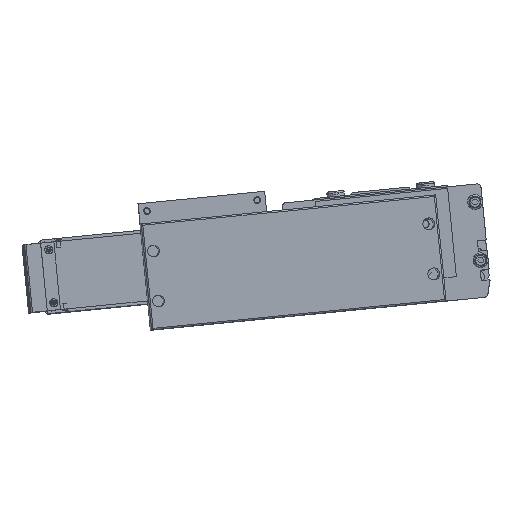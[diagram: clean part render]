
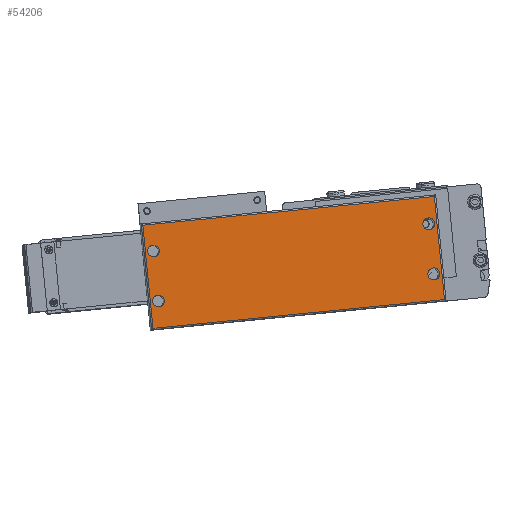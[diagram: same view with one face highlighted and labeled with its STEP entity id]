
A CAD part, top view. The second image highlights one B-rep face of the part: STEP entity #54206.
In plain terms, the highlighted planar face has unit normal (0.017, 0.003, 1) as drawn and (0, 0, 1) by its records, which use the part's own axes.
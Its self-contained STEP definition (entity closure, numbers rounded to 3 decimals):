
#23736 = AXIS2_PLACEMENT_3D ( 'NONE', #24044, #24042, #24057 ) ;
#23737 = CIRCLE ( 'NONE', #23736, 4. ) ;
#24042 = DIRECTION ( 'NONE',  ( 0., 0., 1. ) ) ;
#24044 = CARTESIAN_POINT ( 'NONE',  ( 29.25, 19., 44. ) ) ;
#24057 = DIRECTION ( 'NONE',  ( 1., 0., 0. ) ) ;
#24202 = CARTESIAN_POINT ( 'NONE',  ( 25.25, 53., 44. ) ) ;
#24241 = CARTESIAN_POINT ( 'NONE',  ( 25.25, 19., 44. ) ) ;
#24295 = CARTESIAN_POINT ( 'NONE',  ( -161.75, 19., 44. ) ) ;
#24300 = CARTESIAN_POINT ( 'NONE',  ( 33.25, 19., 44. ) ) ;
#24325 = DIRECTION ( 'NONE',  ( 1., 0., 0. ) ) ;
#24326 = DIRECTION ( 'NONE',  ( 0., 0., 1. ) ) ;
#24327 = CARTESIAN_POINT ( 'NONE',  ( -157.75, 19., 44. ) ) ;
#24337 = AXIS2_PLACEMENT_3D ( 'NONE', #24327, #24326, #24325 ) ;
#24342 = CARTESIAN_POINT ( 'NONE',  ( -153.75, 19., 44. ) ) ;
#24344 = CIRCLE ( 'NONE', #24337, 4. ) ;
#24363 = DIRECTION ( 'NONE',  ( 1., 0., 0. ) ) ;
#24364 = DIRECTION ( 'NONE',  ( 0., 0., 1. ) ) ;
#24365 = CARTESIAN_POINT ( 'NONE',  ( -157.75, 53., 44. ) ) ;
#24366 = AXIS2_PLACEMENT_3D ( 'NONE', #24365, #24364, #24363 ) ;
#24373 = CIRCLE ( 'NONE', #24366, 4. ) ;
#24377 = CARTESIAN_POINT ( 'NONE',  ( -161.75, 53., 44. ) ) ;
#24378 = CARTESIAN_POINT ( 'NONE',  ( -153.75, 53., 44. ) ) ;
#24424 = DIRECTION ( 'NONE',  ( 1., 0., 0. ) ) ;
#24425 = DIRECTION ( 'NONE',  ( 0., 0., 1. ) ) ;
#24426 = CARTESIAN_POINT ( 'NONE',  ( 29.25, 53., 44. ) ) ;
#24430 = CARTESIAN_POINT ( 'NONE',  ( 33.25, 53., 44. ) ) ;
#24437 = AXIS2_PLACEMENT_3D ( 'NONE', #24426, #24425, #24424 ) ;
#24440 = CIRCLE ( 'NONE', #24437, 4. ) ;
#31215 = CARTESIAN_POINT ( 'NONE',  ( 34.75, 1., 44. ) ) ;
#31313 = CARTESIAN_POINT ( 'NONE',  ( 34.75, 72., 44. ) ) ;
#31314 = LINE ( 'NONE', #31313, #31378 ) ;
#31348 = CARTESIAN_POINT ( 'NONE',  ( 35.75, 1., 44. ) ) ;
#31350 = LINE ( 'NONE', #31348, #31384 ) ;
#31373 = VECTOR ( 'NONE', #31449, 1000. ) ;
#31375 = CARTESIAN_POINT ( 'NONE',  ( -164.25, 71., 44. ) ) ;
#31376 = LINE ( 'NONE', #31375, #31373 ) ;
#31377 = DIRECTION ( 'NONE',  ( 0., 1., 0. ) ) ;
#31378 = VECTOR ( 'NONE', #31377, 1000. ) ;
#31383 = DIRECTION ( 'NONE',  ( 1., 0., 0. ) ) ;
#31384 = VECTOR ( 'NONE', #31383, 1000. ) ;
#31412 = CARTESIAN_POINT ( 'NONE',  ( 34.75, 71., 44. ) ) ;
#31413 = CIRCLE ( 'NONE', #31441, 4. ) ;
#31415 = CARTESIAN_POINT ( 'NONE',  ( 29.25, 19., 44. ) ) ;
#31416 = CARTESIAN_POINT ( 'NONE',  ( -163.25, 71., 44. ) ) ;
#31417 = DIRECTION ( 'NONE',  ( 0., 0., 1. ) ) ;
#31418 = CARTESIAN_POINT ( 'NONE',  ( -164.25, 0., 44. ) ) ;
#31419 = DIRECTION ( 'NONE',  ( 0., -1., 0. ) ) ;
#31420 = VECTOR ( 'NONE', #31419, 1000. ) ;
#31421 = CARTESIAN_POINT ( 'NONE',  ( -163.25, 0., 44. ) ) ;
#31422 = LINE ( 'NONE', #31421, #31420 ) ;
#31441 = AXIS2_PLACEMENT_3D ( 'NONE', #31415, #31507, #31505 ) ;
#31449 = DIRECTION ( 'NONE',  ( -1., 0., 0. ) ) ;
#31452 = DIRECTION ( 'NONE',  ( 1., 0., 0. ) ) ;
#31462 = CIRCLE ( 'NONE', #31582, 4. ) ;
#31465 = DIRECTION ( 'NONE',  ( 1., 0., 0. ) ) ;
#31467 = DIRECTION ( 'NONE',  ( 0., 0., 1. ) ) ;
#31468 = AXIS2_PLACEMENT_3D ( 'NONE', #31508, #31467, #31465 ) ;
#31470 = FACE_BOUND ( 'NONE', #54133, .T. ) ;
#31471 = AXIS2_PLACEMENT_3D ( 'NONE', #31418, #31417, #31452 ) ;
#31473 = FACE_OUTER_BOUND ( 'NONE', #54188, .T. ) ;
#31475 = CIRCLE ( 'NONE', #31468, 4. ) ;
#31486 = FACE_BOUND ( 'NONE', #54186, .T. ) ;
#31489 = FACE_BOUND ( 'NONE', #54183, .T. ) ;
#31492 = CARTESIAN_POINT ( 'NONE',  ( -163.25, 1., 44. ) ) ;
#31493 = DIRECTION ( 'NONE',  ( 1., 0., 0. ) ) ;
#31495 = DIRECTION ( 'NONE',  ( 0., 0., 1. ) ) ;
#31497 = AXIS2_PLACEMENT_3D ( 'NONE', #31510, #31495, #31493 ) ;
#31499 = CIRCLE ( 'NONE', #31497, 4. ) ;
#31503 = FACE_BOUND ( 'NONE', #54128, .T. ) ;
#31505 = DIRECTION ( 'NONE',  ( 1., 0., 0. ) ) ;
#31507 = DIRECTION ( 'NONE',  ( 0., 0., 1. ) ) ;
#31508 = CARTESIAN_POINT ( 'NONE',  ( -157.75, 53., 44. ) ) ;
#31510 = CARTESIAN_POINT ( 'NONE',  ( 29.25, 53., 44. ) ) ;
#31511 = PLANE ( 'NONE',  #31471 ) ;
#31577 = DIRECTION ( 'NONE',  ( 1., 0., 0. ) ) ;
#31578 = DIRECTION ( 'NONE',  ( 0., 0., 1. ) ) ;
#31580 = CARTESIAN_POINT ( 'NONE',  ( -157.75, 19., 44. ) ) ;
#31582 = AXIS2_PLACEMENT_3D ( 'NONE', #31580, #31578, #31577 ) ;
#51984 = VERTEX_POINT ( 'NONE', #24202 ) ;
#51989 = VERTEX_POINT ( 'NONE', #24241 ) ;
#52037 = VERTEX_POINT ( 'NONE', #24300 ) ;
#52039 = EDGE_CURVE ( 'NONE', #51989, #52037, #23737, .T. ) ;
#52044 = VERTEX_POINT ( 'NONE', #24295 ) ;
#52051 = VERTEX_POINT ( 'NONE', #24342 ) ;
#52053 = EDGE_CURVE ( 'NONE', #52044, #52051, #24344, .T. ) ;
#52062 = VERTEX_POINT ( 'NONE', #24378 ) ;
#52064 = VERTEX_POINT ( 'NONE', #24377 ) ;
#52069 = EDGE_CURVE ( 'NONE', #52064, #52062, #24373, .T. ) ;
#52093 = VERTEX_POINT ( 'NONE', #24430 ) ;
#52094 = EDGE_CURVE ( 'NONE', #51984, #52093, #24440, .T. ) ;
#54128 = EDGE_LOOP ( 'NONE', ( #54201, #54141 ) ) ;
#54132 = VERTEX_POINT ( 'NONE', #31215 ) ;
#54133 = EDGE_LOOP ( 'NONE', ( #54208, #54203 ) ) ;
#54141 = ORIENTED_EDGE ( 'NONE', *, *, #52039, .F. ) ;
#54170 = EDGE_CURVE ( 'NONE', #54192, #54132, #31350, .T. ) ;
#54171 = ORIENTED_EDGE ( 'NONE', *, *, #54170, .T. ) ;
#54172 = EDGE_CURVE ( 'NONE', #54132, #54191, #31314, .T. ) ;
#54175 = EDGE_CURVE ( 'NONE', #54191, #54197, #31376, .T. ) ;
#54178 = ORIENTED_EDGE ( 'NONE', *, *, #54175, .T. ) ;
#54179 = EDGE_CURVE ( 'NONE', #54197, #54192, #31422, .T. ) ;
#54181 = ORIENTED_EDGE ( 'NONE', *, *, #54179, .T. ) ;
#54183 = EDGE_LOOP ( 'NONE', ( #54185, #54184 ) ) ;
#54184 = ORIENTED_EDGE ( 'NONE', *, *, #52053, .F. ) ;
#54185 = ORIENTED_EDGE ( 'NONE', *, *, #54207, .F. ) ;
#54186 = EDGE_LOOP ( 'NONE', ( #54187, #54194 ) ) ;
#54187 = ORIENTED_EDGE ( 'NONE', *, *, #54190, .F. ) ;
#54188 = EDGE_LOOP ( 'NONE', ( #54171, #54193, #54178, #54181 ) ) ;
#54189 = EDGE_CURVE ( 'NONE', #52037, #51989, #31413, .T. ) ;
#54190 = EDGE_CURVE ( 'NONE', #52093, #51984, #31499, .T. ) ;
#54191 = VERTEX_POINT ( 'NONE', #31412 ) ;
#54192 = VERTEX_POINT ( 'NONE', #31492 ) ;
#54193 = ORIENTED_EDGE ( 'NONE', *, *, #54172, .T. ) ;
#54194 = ORIENTED_EDGE ( 'NONE', *, *, #52094, .F. ) ;
#54197 = VERTEX_POINT ( 'NONE', #31416 ) ;
#54201 = ORIENTED_EDGE ( 'NONE', *, *, #54189, .F. ) ;
#54203 = ORIENTED_EDGE ( 'NONE', *, *, #52069, .F. ) ;
#54205 = EDGE_CURVE ( 'NONE', #52062, #52064, #31475, .T. ) ;
#54206 = ADVANCED_FACE ( 'NONE', ( #31470, #31489, #31503, #31486, #31473 ), #31511, .T. ) ;
#54207 = EDGE_CURVE ( 'NONE', #52051, #52044, #31462, .T. ) ;
#54208 = ORIENTED_EDGE ( 'NONE', *, *, #54205, .F. ) ;
